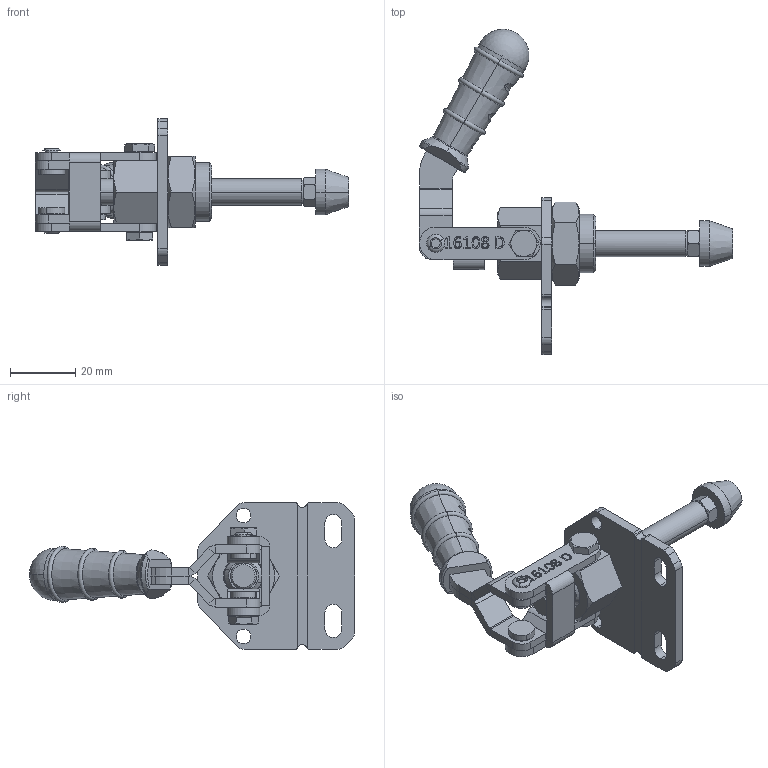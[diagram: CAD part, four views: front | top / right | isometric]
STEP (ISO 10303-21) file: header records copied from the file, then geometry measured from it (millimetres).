
FILE_DESCRIPTION (( 'STEP AP203' ), '1' );
FILE_NAME ('16108_D.STEP', '2022-11-28T05:50:21', ( '' ), ( '' ), 'SwSTEP 2.0', 'SolidWorks 2023', '' );
FILE_SCHEMA (( 'CONFIG_CONTROL_DESIGN' ));
Length unit declared in the file: millimetre
Products named in the file (15): M4x5x10_Varsayılan; 1601_Cap8_Mil_Varsayılan; M5 Somun_Varsayılan; 1601_TozKeçeliAltıgenGovde_Varsayılan; M5 Baskı_Varsayılan; 1601_S3_Flans_Varsayılan; M18x1_5x8 Somun_Varsayılan; 1601_Mafsal_Varsayılan; Pim_4_5x15_5_Varsayılan; 1601_Pim_4x7_5_Varsayılan; 16108_D; C45 Tutamak_Varsayılan; KASTAS-K52-8X14_2X4-5_2_Varsayılan; 1601_Hareket Kolu_can_kucuk_Varsayılan; Aynalama1601_Hareket Kolu_can_kucuk_Varsayılan
Assembly tree (17 placements, depth 2):
  16108_D
    1601_TozKeçeliAltıgenGovde_Varsayılan
    KASTAS-K52-8X14_2X4-5_2_Varsayılan  x2
    1601_Cap8_Mil_Varsayılan
    1601_Hareket Kolu_can_kucuk_Varsayılan
    1601_Mafsal_Varsayılan
    Pim_4_5x15_5_Varsayılan
    1601_S3_Flans_Varsayılan
    M18x1_5x8 Somun_Varsayılan
    M5 Baskı_Varsayılan
    M5 Somun_Varsayılan
    M4x5x10_Varsayılan  x2
    1601_Pim_4x7_5_Varsayılan  x2
    C45 Tutamak_Varsayılan
    Aynalama1601_Hareket Kolu_can_kucuk_Varsayılan
Bounding box: 95.9 x 99.6 x 45 mm (x, y, z)
Volume: 30358.5 mm3; surface area: 25116.1 mm2
Topology: 17 solids, 17 shells, 847 faces, 2053 edges, 1278 vertices
Faces by surface type: plane 376, cylinder 188, bspline 123, cone 114, torus 44, sphere 2
Entity records: 31584 total; most frequent: CARTESIAN_POINT 13181, ORIENTED_EDGE 3588, DIRECTION 3229, EDGE_CURVE 1794, AXIS2_PLACEMENT_3D 1124, VERTEX_POINT 1122, VECTOR 981, LINE 981
